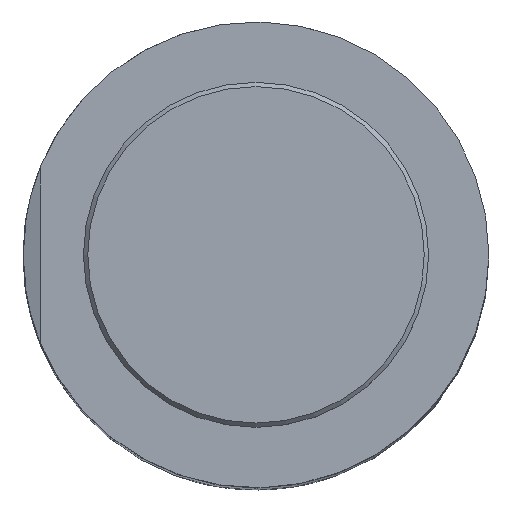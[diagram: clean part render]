
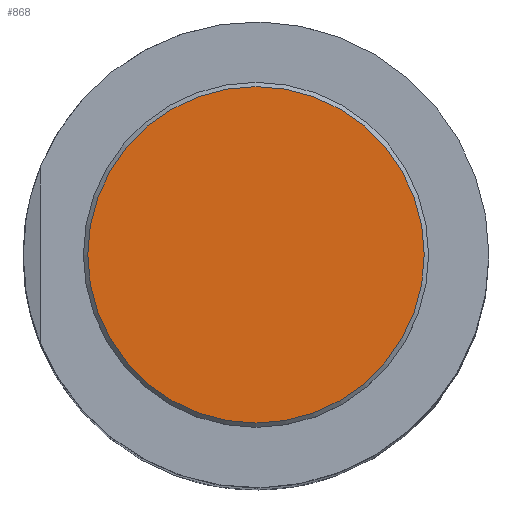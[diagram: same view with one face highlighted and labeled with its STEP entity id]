
A CAD part, top view. The second image highlights one B-rep face of the part: STEP entity #868.
In plain terms, the highlighted planar face has unit normal (0, 0, 1) as drawn and (-1, 0, 0) by its records, which use the part's own axes.
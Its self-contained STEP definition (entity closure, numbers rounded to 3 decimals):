
#156=PLANE('',#1001);
#264=FACE_OUTER_BOUND('',#372,.T.);
#372=EDGE_LOOP('',(#785));
#424=CIRCLE('',#1000,19.5);
#501=VERTEX_POINT('',#1646);
#596=EDGE_CURVE('',#501,#501,#424,.T.);
#785=ORIENTED_EDGE('',*,*,#596,.T.);
#868=ADVANCED_FACE('',(#264),#156,.T.);
#1000=AXIS2_PLACEMENT_3D('',#1647,#1270,#1271);
#1001=AXIS2_PLACEMENT_3D('',#1648,#1272,#1273);
#1270=DIRECTION('center_axis',(-1.,0.,0.));
#1271=DIRECTION('ref_axis',(0.,0.,1.));
#1272=DIRECTION('center_axis',(-1.,0.,0.));
#1273=DIRECTION('ref_axis',(0.,0.,1.));
#1646=CARTESIAN_POINT('',(-23.,0.,19.5));
#1647=CARTESIAN_POINT('Origin',(-23.,0.,0.));
#1648=CARTESIAN_POINT('Origin',(-23.,0.,0.));
